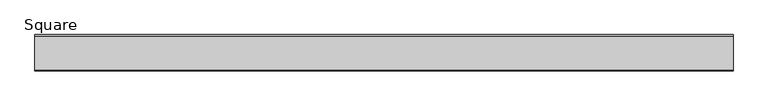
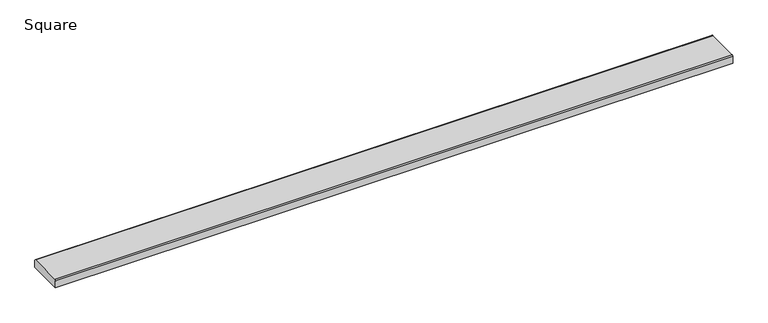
"""IFC4 building model written with IfcOpenShell, lengths in millimetres: sanitary terminal geometry, ZZZ_do not use_PF_ST_grating for showerdrain c INT_Aco : Square."""

from ifc_helpers import new_model, si_unit, point, frame, frame_2d, origin, place, context, project, spatial, polyline, circle_curve, trimmed, segment, composite_curve, outline, extrude, source, transform, mapped, element, save


def square_cc1d3f16(model_context):
    return source(origin(), model_context, "Body", "SweptSolid", [
        extrude(outline(composite_curve([segment(polyline([(31.0, -15.0), (-31.0, -15.0), (-31.0, -1.977849)]), True, "CONTINUOUS"), segment(trimmed(circle_curve(frame_2d((-29.022151, -1.977849)), 1.977849), [point((-31.0, -1.977849))], [point((-29.022151, 0.0))], False, "CARTESIAN"), True, "CONTINUOUS"), segment(polyline([(-29.022151, 0.0), (29.022151, 0.0)]), True, "CONTINUOUS"), segment(trimmed(circle_curve(frame_2d((29.022151, -1.977849)), 1.977849), [point((29.022151, 0.0))], [point((31.0, -1.977849))], False, "CARTESIAN"), True, "CONTINUOUS"), segment(polyline([(31.0, -1.977849), (31.0, -15.0)]), True, "CONTINUOUS")], self_intersect=False)), frame((-592.5, 0.0, 0.0), z_axis=(1.0, 0.0, 0.0), x_axis=(0.0, 1.0, 0.0)), (0.0, 0.0, 1.0), 1185.0),
    ])


if __name__ == "__main__":
    model = new_model("IFC4")
    model_context = context("Model", 3, world=origin())
    ifc_project = project(units=[si_unit("LENGTHUNIT", "METRE", prefix="MILLI")], contexts=[model_context])
    site = spatial("IfcSite", under=ifc_project)
    building = spatial("IfcBuilding", under=site)
    placement = place(None, origin())
    square_shape = square_cc1d3f16(model_context)
    element("IfcSanitaryTerminal", 1, ObjectType="ZZZ_do not use_PF_ST_grating for showerdrain c INT_Aco : Square", at=placement, inside=building, context=model_context, shape_type="MappedRepresentation", body=[
        mapped(square_shape, transform((0.0, 0.0, 0.0), x_axis=(1.0, 0.0, 0.0), y_axis=(0.0, 1.0, 0.0), z_axis=(0.0, 0.0, 1.0))),
    ])
    save(model, "model.ifc")
